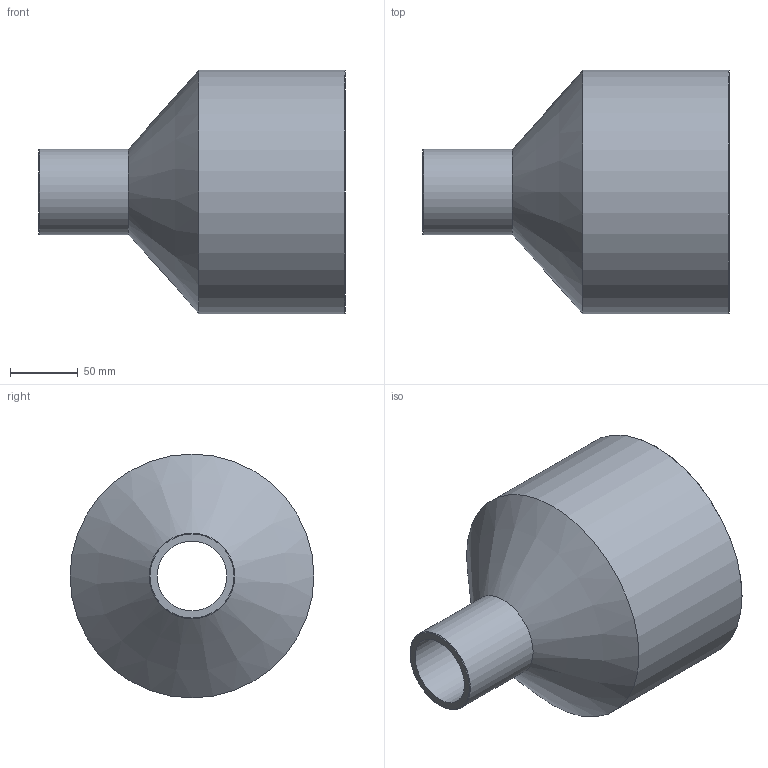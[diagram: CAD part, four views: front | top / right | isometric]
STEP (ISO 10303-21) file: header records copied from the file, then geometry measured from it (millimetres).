
FILE_DESCRIPTION(/* description */ ('Unknown'),/* implementation_level */ '2;1');
FILE_NAME(/* name */ 'RP180063C',/* time_stamp */ '2021-09-17T15:17:35+02:00',/* author */ ('Unknown'),/* organization */ ('Unknown'),/* preprocessor_version */ 'ST-DEVELOPER v16.7',/* originating_system */ 'Solid Edge',/* authorisation */ 'Unknown');
FILE_SCHEMA (('AUTOMOTIVE_DESIGN {1 0 10303 214 3 1 1}'));
Length unit declared in the file: millimetre
Products named in the file (1): RP180063C
Bounding box: 226 x 180 x 180 mm (x, y, z)
Volume: 1337731.8 mm3; surface area: 192974.5 mm2
Topology: 1 solids, 1 shells, 10 faces, 19 edges, 11 vertices
Faces by surface type: cylinder 4, cone 4, plane 2
Full cylindrical faces by diameter (mm): 51.4 x1, 63 x1, 147.2 x1, 180 x1
Entity records: 238 total; most frequent: DIRECTION 42, CARTESIAN_POINT 31, AXIS2_PLACEMENT_3D 21, ORIENTED_EDGE 20, EDGE_LOOP 20, FACE_BOUND 20, EDGE_CURVE 10, VERTEX_POINT 10
